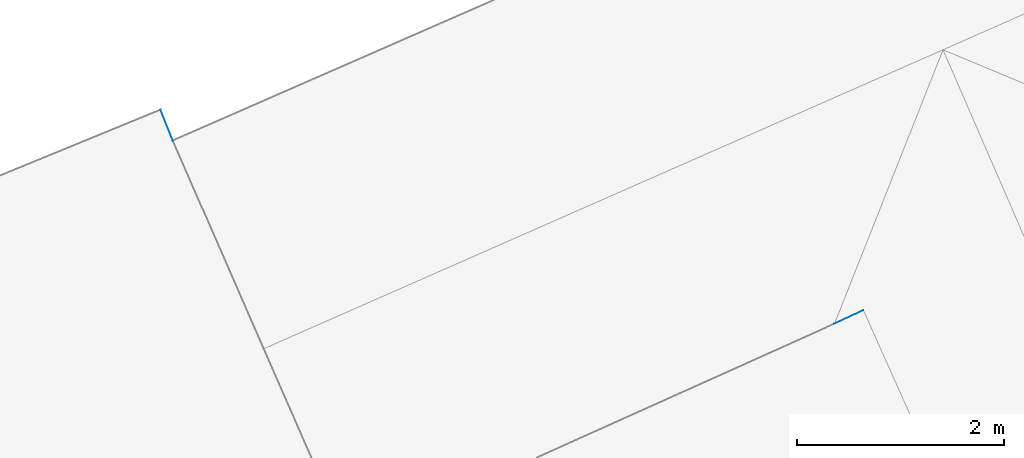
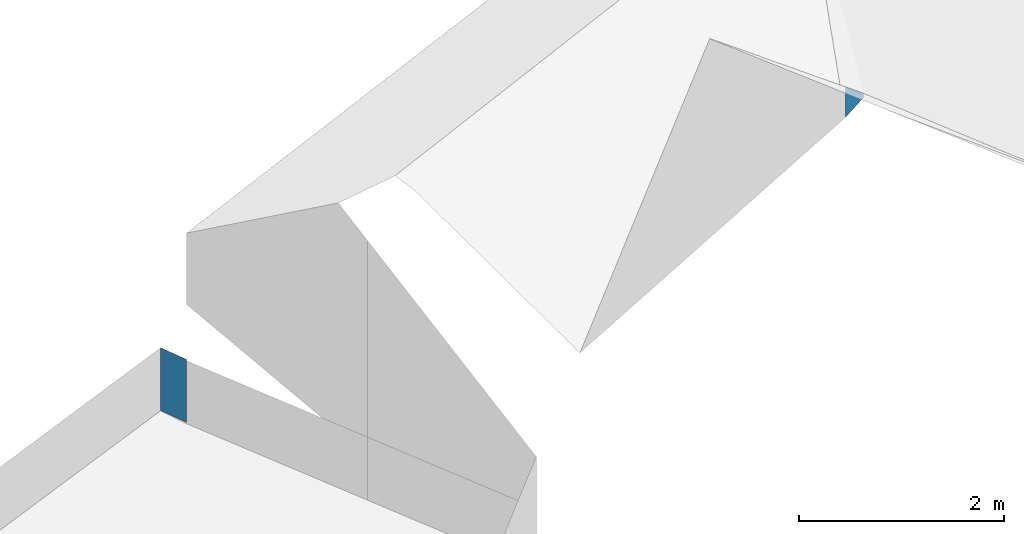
# Not in any storey, part 53 of 59: 3 walls.
"""IFC4 building model written with IfcOpenShell, lengths in metres."""

from ifc_helpers import new_model, entity, si_unit, converted_unit, frame, origin, place, context, subcontext, project, spatial, face_set, surface_model, element, save


model = new_model("IFC4")

# Units and contexts
model_context = context("Model", 3, precision=1e-05, world=origin())
body_context = subcontext(model_context, "Body", "Model", "MODEL_VIEW")
ifc_project = project(units=[converted_unit("PLANEANGLEUNIT", "DEGREE", entity("IfcRatioMeasure", 0.0174532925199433), si_unit("PLANEANGLEUNIT", "RADIAN"), dimensions=[0, 0, 0, 0, 0, 0, 0]), si_unit("AREAUNIT", "SQUARE_METRE"), si_unit("LENGTHUNIT", "METRE")], contexts=[model_context])

# Site, building
site_placement = place(None, origin())
site = spatial("IfcSite", under=ifc_project, at=site_placement, Name="_site")
building_placement = place(site_placement, origin())
building = spatial("IfcBuilding", under=site, at=building_placement, Name="_building")

# Walls
wall_placement = place(building_placement, origin())
element("IfcWall", 1, at=wall_placement, inside=building, Name="Wall", PredefinedType="NOTDEFINED", context=body_context, shape_type="SurfaceModel", body=[
    surface_model("IfcFaceBasedSurfaceModel", [(237.83, 234.109, 219.314), (238.11, 234.24, 219.06), (238.11, 234.24, 219.01), (237.83, 234.109, 218.95)], [face_set([[[0, 1, 2, 3]]])]),
])
for number, where, name in (
    (2, (0.0, 0.0, 0.0), "Wall"),
    (3, (0.0, 0.0, 0.0), "Wall"),
):
    element("IfcWall", number, at=place(building_placement, frame(where)), inside=building, Name=name, PredefinedType="NOTDEFINED", context=body_context, shape_type="SurfaceModel", body=[
        surface_model("IfcFaceBasedSurfaceModel", [(231.31, 236.18, 216.486), (231.43, 235.881, 216.486), (231.43, 235.881, 217.236), (231.31, 236.18, 217.236)], [face_set([[[0, 1, 2, 3]]])]),
    ])

save(model, "model.ifc")
